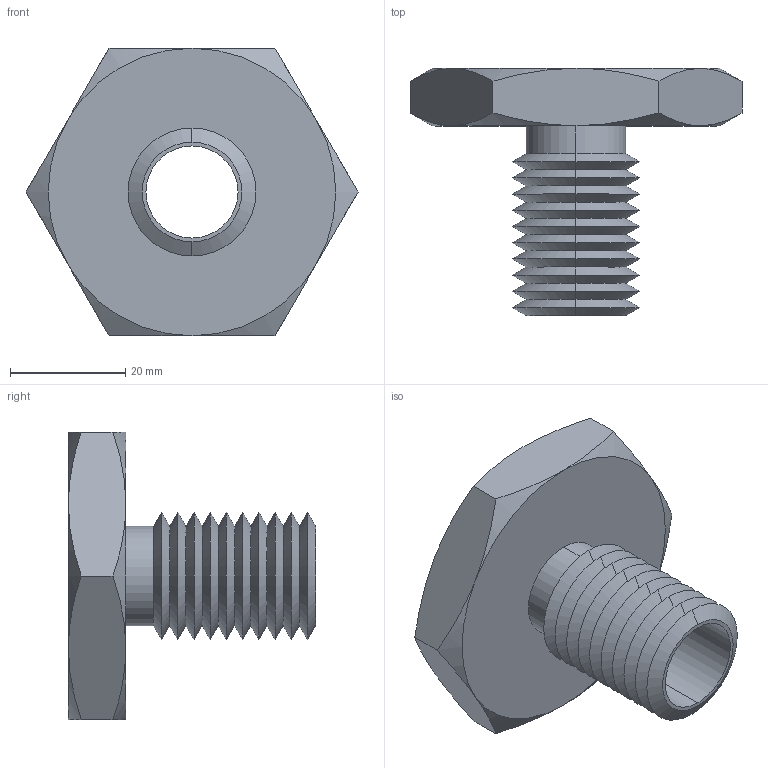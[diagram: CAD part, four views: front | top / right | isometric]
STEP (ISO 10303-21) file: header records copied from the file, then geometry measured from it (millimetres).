
FILE_DESCRIPTION (( 'STEP AP203' ), '1' );
FILE_NAME ('63302.W5088_M16x2.step', '2013-12-08T11:37:01', ( 'User' ), ( '' ), 'SwSTEP 2.0', 'SolidWorks 2009', '' );
FILE_SCHEMA (( 'CONFIG_CONTROL_DESIGN' ));
Length unit declared in the file: millimetre
Products named in the file (1): 63302.W5088_M16x2
Bounding box: 57.73 x 43 x 50 mm (x, y, z)
Volume: 22475.1 mm3; surface area: 11332.5 mm2
Topology: 1 solids, 1 shells, 67 faces, 138 edges, 74 vertices
Faces by surface type: cone 54, plane 9, cylinder 4
Entity records: 1939 total; most frequent: CARTESIAN_POINT 464, DIRECTION 312, ORIENTED_EDGE 276, EDGE_CURVE 138, AXIS2_PLACEMENT_3D 130, VERTEX_POINT 74, EDGE_LOOP 70, ADVANCED_FACE 67
